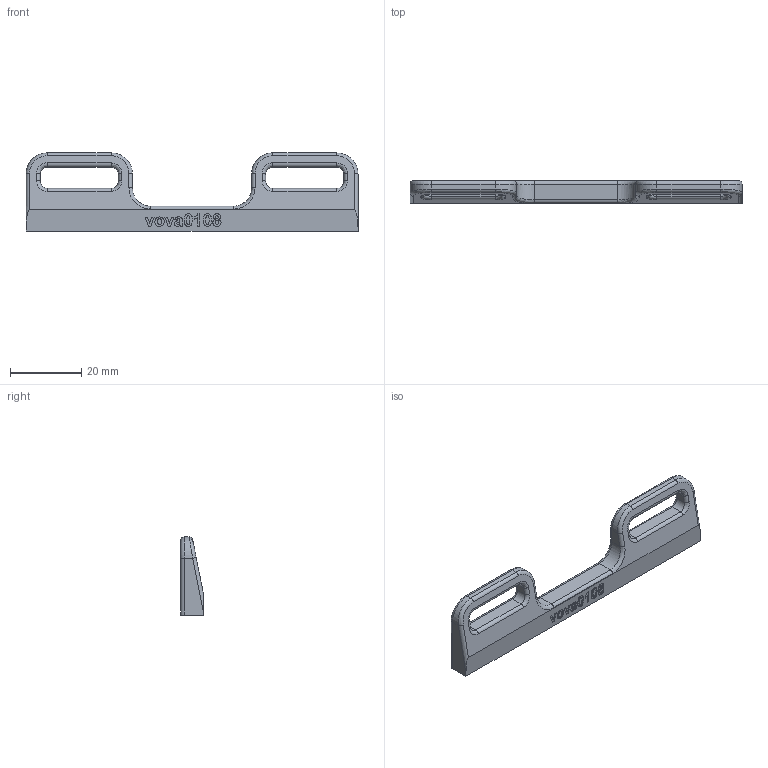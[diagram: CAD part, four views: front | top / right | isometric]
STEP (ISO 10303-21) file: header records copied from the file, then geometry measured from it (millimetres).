
FILE_DESCRIPTION (( 'STEP AP214' ), '1' );
FILE_NAME ('Äåðæàòåëü ðåìíåé.STEP', '2019-03-23T07:05:20', ( '' ), ( '' ), 'SwSTEP 2.0', 'SolidWorks 2018', '' );
FILE_SCHEMA (( 'AUTOMOTIVE_DESIGN' ));
Length unit declared in the file: millimetre
Products named in the file (1): Äåðæàòåëü ðåìíåé
Bounding box: 93.52 x 6.4 x 22 mm (x, y, z)
Volume: 6972 mm3; surface area: 4347.5 mm2
Topology: 1 solids, 1 shells, 211 faces, 523 edges, 330 vertices
Faces by surface type: bspline 88, plane 61, cylinder 48, torus 14
Entity records: 10075 total; most frequent: CARTESIAN_POINT 5619, ORIENTED_EDGE 1046, DIRECTION 687, EDGE_CURVE 523, VERTEX_POINT 330, VECTOR 251, LINE 251, EDGE_LOOP 231
